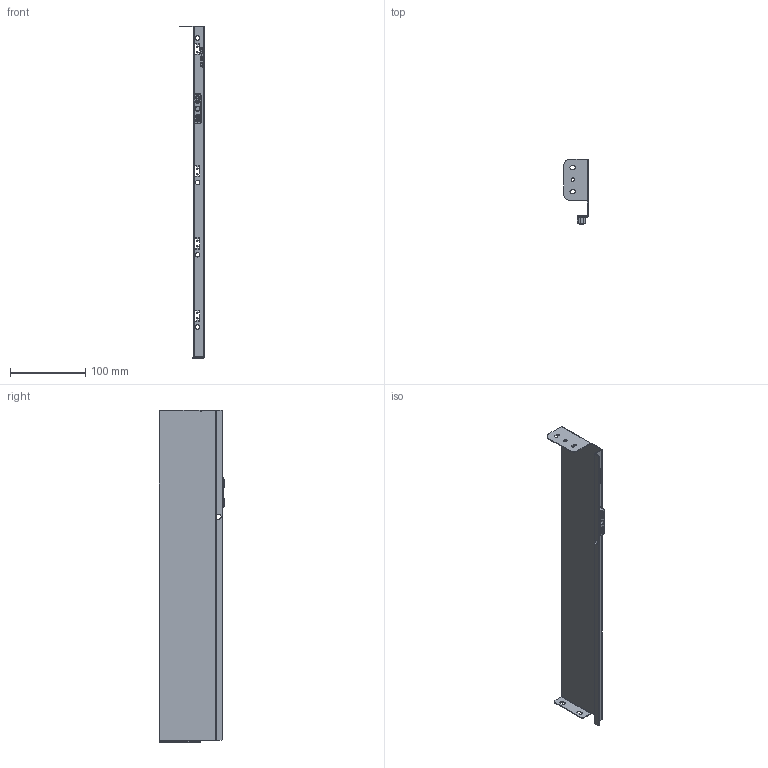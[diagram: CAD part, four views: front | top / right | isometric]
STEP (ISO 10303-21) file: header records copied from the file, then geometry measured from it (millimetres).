
FILE_DESCRIPTION (( 'STEP AP203' ), '1' );
FILE_NAME ('HL11450R.STEP', '2021-07-31T00:32:19', ( 'Users' ), ( 'Microsoft' ), 'SwSTEP 2.0', 'SolidWorks 2018', '' );
FILE_SCHEMA (( 'CONFIG_CONTROL_DESIGN' ));
Length unit declared in the file: millimetre
Products named in the file (1): HL11450R
Bounding box: 32.6 x 86.7 x 441.2 mm (x, y, z)
Volume: 56408.2 mm3; surface area: 92626.3 mm2
Topology: 1 solids, 1 shells, 435 faces, 1182 edges, 766 vertices
Faces by surface type: plane 174, cylinder 163, torus 55, bspline 41, cone 2
Entity records: 16056 total; most frequent: CARTESIAN_POINT 4859, ORIENTED_EDGE 2356, DIRECTION 2325, EDGE_CURVE 1178, AXIS2_PLACEMENT_3D 838, VERTEX_POINT 766, LINE 649, VECTOR 649
